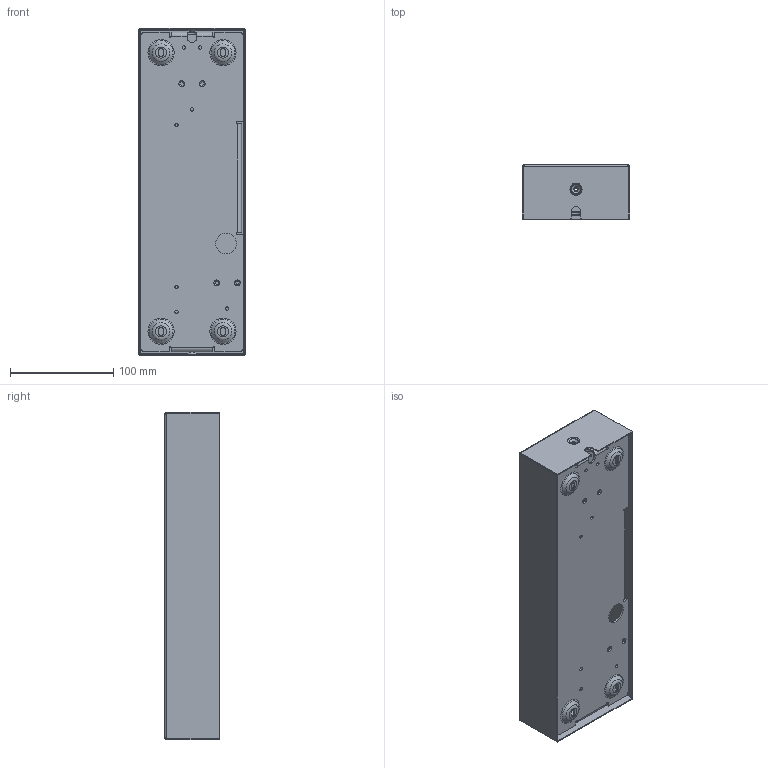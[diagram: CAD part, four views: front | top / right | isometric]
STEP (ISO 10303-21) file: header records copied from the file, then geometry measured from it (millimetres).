
FILE_DESCRIPTION(/* description */ (''),/* implementation_level */ '2;1');
FILE_NAME(/* name */ 'C:\profileTemp\INVwork\100028752.step',/* time_stamp */ '2024-03-13T11:32:17+01:00',/* author */ ('mcorazzola'),/* organization */ (''),/* preprocessor_version */ 'ST-DEVELOPER v18.1',/* originating_system */ 'Autodesk Inventor 2021',/* authorisation */ '');
FILE_SCHEMA (('AUTOMOTIVE_DESIGN { 1 0 10303 214 3 1 1 }'));
Length unit declared in the file: millimetre
Products named in the file (3): A05814; D09670; D09669
Assembly tree (2 placements, depth 2):
  A05814
    D09670
    D09669
Bounding box: 104 x 53 x 317.5 mm (x, y, z)
Volume: 150158.3 mm3; surface area: 231038.7 mm2
Topology: 2 solids, 2 shells, 208 faces, 510 edges, 312 vertices
Faces by surface type: plane 103, cylinder 67, torus 20, cone 18
Full cylindrical faces by diameter (mm): 2.85 x2, 3.242 x9, 3.5 x4, 20 x1
Entity records: 6306 total; most frequent: DIRECTION 1154, CARTESIAN_POINT 1035, ORIENTED_EDGE 1020, EDGE_CURVE 510, AXIS2_PLACEMENT_3D 431, VERTEX_POINT 312, LINE 292, VECTOR 292
